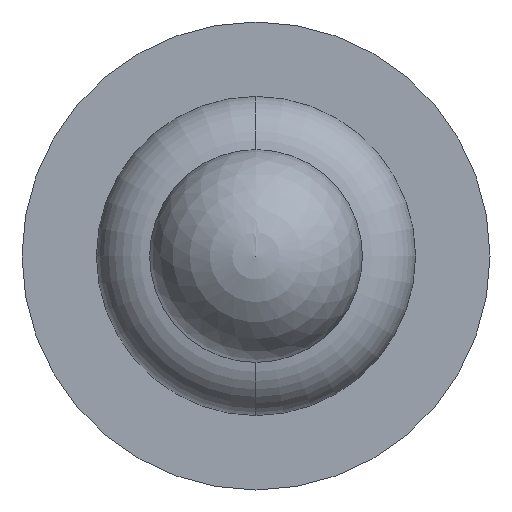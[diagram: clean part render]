
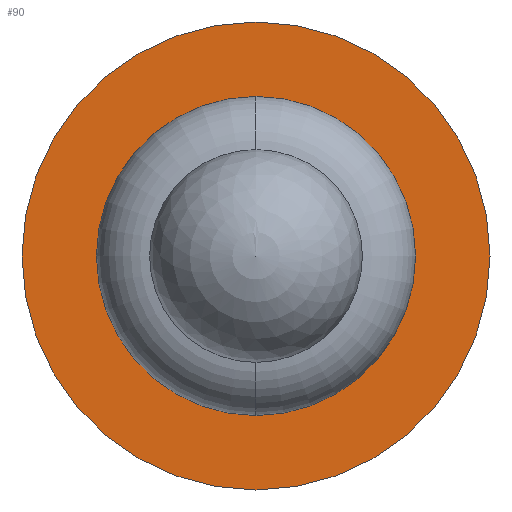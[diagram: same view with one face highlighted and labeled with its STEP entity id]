
A CAD part, left-side view. The second image highlights one B-rep face of the part: STEP entity #90.
In plain terms, the highlighted planar face has unit normal (-1, 0, 0).
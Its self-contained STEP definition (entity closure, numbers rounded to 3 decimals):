
#6 = VERTEX_POINT ( 'NONE', #60 ) ;
#8 = DIRECTION ( 'NONE',  ( -1., 0., 0. ) ) ;
#9 = PLANE ( 'NONE',  #313 ) ;
#10 = EDGE_CURVE ( 'NONE', #121, #338, #356, .T. ) ;
#25 = EDGE_LOOP ( 'NONE', ( #248, #34 ) ) ;
#34 = ORIENTED_EDGE ( 'NONE', *, *, #217, .F. ) ;
#35 = CARTESIAN_POINT ( 'NONE',  ( 1.8, 0., 0.75 ) ) ;
#39 = DIRECTION ( 'NONE',  ( 0., 0., 1. ) ) ;
#40 = FACE_BOUND ( 'NONE', #25, .T. ) ;
#54 = CARTESIAN_POINT ( 'NONE',  ( 1.8, 0., -0.75 ) ) ;
#60 = CARTESIAN_POINT ( 'NONE',  ( 1.8, 0., 1.1 ) ) ;
#64 = EDGE_CURVE ( 'NONE', #345, #6, #125, .T. ) ;
#74 = AXIS2_PLACEMENT_3D ( 'NONE', #145, #181, #242 ) ;
#86 = ORIENTED_EDGE ( 'NONE', *, *, #64, .T. ) ;
#90 = ADVANCED_FACE ( 'NONE', ( #40, #168 ), #9, .F. ) ;
#121 = VERTEX_POINT ( 'NONE', #35 ) ;
#125 = CIRCLE ( 'NONE', #308, 1.1 ) ;
#129 = DIRECTION ( 'NONE',  ( 1., 0., 0. ) ) ;
#131 = DIRECTION ( 'NONE',  ( 0., 0., 1. ) ) ;
#145 = CARTESIAN_POINT ( 'NONE',  ( 1.8, 0., 0. ) ) ;
#157 = CARTESIAN_POINT ( 'NONE',  ( 1.8, 0., 0. ) ) ;
#163 = DIRECTION ( 'NONE',  ( 0., 1., 0. ) ) ;
#168 = FACE_OUTER_BOUND ( 'NONE', #343, .T. ) ;
#170 = CARTESIAN_POINT ( 'NONE',  ( 1.8, 1.1, 0. ) ) ;
#181 = DIRECTION ( 'NONE',  ( -1., 0., 0. ) ) ;
#191 = DIRECTION ( 'NONE',  ( -1., 0., 0. ) ) ;
#192 = CIRCLE ( 'NONE', #316, 0.75 ) ;
#217 = EDGE_CURVE ( 'NONE', #338, #121, #192, .T. ) ;
#237 = CARTESIAN_POINT ( 'NONE',  ( 1.8, 0., -1.1 ) ) ;
#242 = DIRECTION ( 'NONE',  ( 0., 0., 1. ) ) ;
#248 = ORIENTED_EDGE ( 'NONE', *, *, #10, .F. ) ;
#253 = CIRCLE ( 'NONE', #74, 1.1 ) ;
#284 = DIRECTION ( 'NONE',  ( 0., 0., 1. ) ) ;
#292 = CARTESIAN_POINT ( 'NONE',  ( 1.8, 0., 0. ) ) ;
#308 = AXIS2_PLACEMENT_3D ( 'NONE', #292, #386, #131 ) ;
#313 = AXIS2_PLACEMENT_3D ( 'NONE', #170, #129, #163 ) ;
#316 = AXIS2_PLACEMENT_3D ( 'NONE', #391, #8, #39 ) ;
#327 = EDGE_CURVE ( 'NONE', #6, #345, #253, .T. ) ;
#331 = ORIENTED_EDGE ( 'NONE', *, *, #327, .T. ) ;
#338 = VERTEX_POINT ( 'NONE', #54 ) ;
#343 = EDGE_LOOP ( 'NONE', ( #331, #86 ) ) ;
#345 = VERTEX_POINT ( 'NONE', #237 ) ;
#356 = CIRCLE ( 'NONE', #376, 0.75 ) ;
#376 = AXIS2_PLACEMENT_3D ( 'NONE', #157, #191, #284 ) ;
#386 = DIRECTION ( 'NONE',  ( -1., 0., 0. ) ) ;
#391 = CARTESIAN_POINT ( 'NONE',  ( 1.8, 0., 0. ) ) ;
